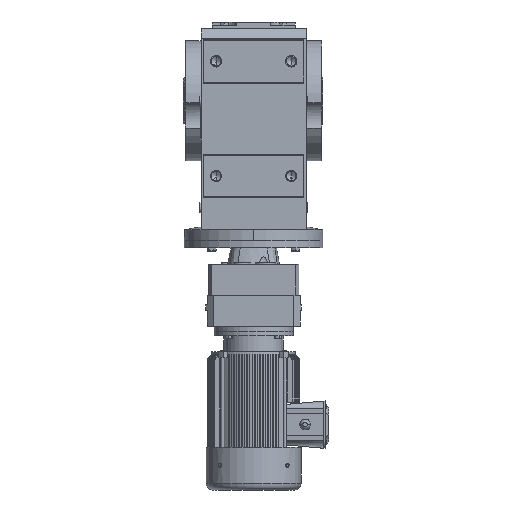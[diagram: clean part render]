
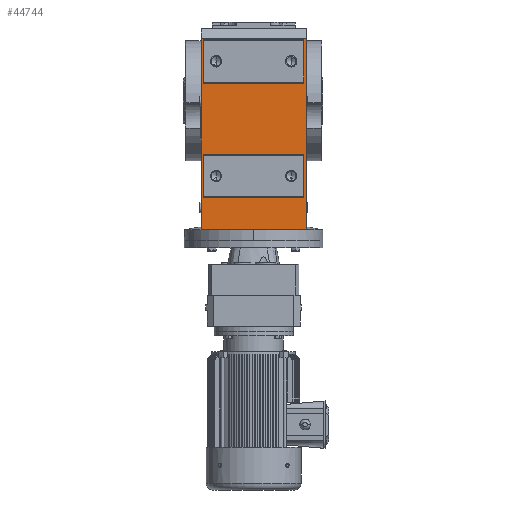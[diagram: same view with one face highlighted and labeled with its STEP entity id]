
A CAD part, front view. The second image highlights one B-rep face of the part: STEP entity #44744.
In plain terms, the highlighted planar face has unit normal (0, -1, 0).
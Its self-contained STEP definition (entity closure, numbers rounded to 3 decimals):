
#984 = CARTESIAN_POINT ( 'NONE',  ( -133., -312., 157.5 ) ) ;
#1056 = VECTOR ( 'NONE', #49701, 1000. ) ;
#2996 = DIRECTION ( 'NONE',  ( 0., 0., -1. ) ) ;
#3015 = VECTOR ( 'NONE', #16898, 1000. ) ;
#3242 = VECTOR ( 'NONE', #23582, 1000. ) ;
#3811 = VECTOR ( 'NONE', #43681, 1000. ) ;
#3964 = VECTOR ( 'NONE', #46951, 1000. ) ;
#4204 = VERTEX_POINT ( 'NONE', #11842 ) ;
#4445 = VERTEX_POINT ( 'NONE', #37050 ) ;
#4729 = EDGE_CURVE ( 'NONE', #49089, #53602, #39233, .T. ) ;
#5252 = VERTEX_POINT ( 'NONE', #41689 ) ;
#5641 = VECTOR ( 'NONE', #51372, 1000. ) ;
#5909 = LINE ( 'NONE', #17107, #52639 ) ;
#6199 = DIRECTION ( 'NONE',  ( -1., 0., 0. ) ) ;
#6311 = DIRECTION ( 'NONE',  ( 0., 0., -1. ) ) ;
#6414 = LINE ( 'NONE', #14896, #3964 ) ;
#7129 = CARTESIAN_POINT ( 'NONE',  ( -133., -312., -325. ) ) ;
#8010 = ORIENTED_EDGE ( 'NONE', *, *, #37526, .T. ) ;
#8143 = VECTOR ( 'NONE', #2996, 1000. ) ;
#8920 = LINE ( 'NONE', #37546, #49924 ) ;
#9485 = EDGE_CURVE ( 'NONE', #53602, #32753, #59058, .T. ) ;
#9522 = ORIENTED_EDGE ( 'NONE', *, *, #27325, .F. ) ;
#10568 = CARTESIAN_POINT ( 'NONE',  ( -126.5, -312., 155.5 ) ) ;
#10852 = DIRECTION ( 'NONE',  ( 0., 0., 1. ) ) ;
#11590 = FACE_BOUND ( 'NONE', #38620, .T. ) ;
#11621 = ORIENTED_EDGE ( 'NONE', *, *, #45225, .T. ) ;
#11842 = CARTESIAN_POINT ( 'NONE',  ( 133., -312., 157.5 ) ) ;
#12672 = CARTESIAN_POINT ( 'NONE',  ( -126.5, -312., 182.5 ) ) ;
#12800 = EDGE_CURVE ( 'NONE', #49089, #5252, #55266, .T. ) ;
#14896 = CARTESIAN_POINT ( 'NONE',  ( 133., -312., 157.5 ) ) ;
#15192 = PLANE ( 'NONE',  #62524 ) ;
#16898 = DIRECTION ( 'NONE',  ( -1., 0., 0. ) ) ;
#17107 = CARTESIAN_POINT ( 'NONE',  ( -133., -312., 157.5 ) ) ;
#17788 = CARTESIAN_POINT ( 'NONE',  ( 133., -312., 44.5 ) ) ;
#18023 = EDGE_CURVE ( 'NONE', #46463, #4445, #67484, .T. ) ;
#19879 = CARTESIAN_POINT ( 'NONE',  ( 133., -312., 155.5 ) ) ;
#21351 = DIRECTION ( 'NONE',  ( 0., 1., 0. ) ) ;
#22654 = EDGE_CURVE ( 'NONE', #5252, #32753, #32499, .T. ) ;
#23582 = DIRECTION ( 'NONE',  ( 0., 0., -1. ) ) ;
#24944 = VERTEX_POINT ( 'NONE', #30305 ) ;
#26365 = CARTESIAN_POINT ( 'NONE',  ( -126.5, -312., -134.5 ) ) ;
#26587 = CARTESIAN_POINT ( 'NONE',  ( 126.5, -312., 44.5 ) ) ;
#27310 = ORIENTED_EDGE ( 'NONE', *, *, #4729, .F. ) ;
#27325 = EDGE_CURVE ( 'NONE', #4204, #64619, #6414, .T. ) ;
#27377 = VECTOR ( 'NONE', #46512, 1000. ) ;
#27678 = LINE ( 'NONE', #19879, #35804 ) ;
#27719 = EDGE_CURVE ( 'NONE', #24944, #46463, #27678, .T. ) ;
#29907 = VECTOR ( 'NONE', #37630, 1000. ) ;
#30305 = CARTESIAN_POINT ( 'NONE',  ( 126.5, -312., 155.5 ) ) ;
#32499 = LINE ( 'NONE', #48225, #3015 ) ;
#32753 = VERTEX_POINT ( 'NONE', #33498 ) ;
#32836 = CARTESIAN_POINT ( 'NONE',  ( 133., -312., -325. ) ) ;
#33498 = CARTESIAN_POINT ( 'NONE',  ( -126.5, -312., -245.5 ) ) ;
#34248 = CARTESIAN_POINT ( 'NONE',  ( 133., -312., -325. ) ) ;
#34376 = CARTESIAN_POINT ( 'NONE',  ( 126.5, -312., 182.5 ) ) ;
#34479 = FACE_OUTER_BOUND ( 'NONE', #35879, .T. ) ;
#35536 = CARTESIAN_POINT ( 'NONE',  ( 133., -312., -134.5 ) ) ;
#35804 = VECTOR ( 'NONE', #36731, 1000. ) ;
#35879 = EDGE_LOOP ( 'NONE', ( #8010, #66175, #9522, #57096 ) ) ;
#36464 = ORIENTED_EDGE ( 'NONE', *, *, #47142, .T. ) ;
#36731 = DIRECTION ( 'NONE',  ( -1., 0., 0. ) ) ;
#37050 = CARTESIAN_POINT ( 'NONE',  ( -126.5, -312., 44.5 ) ) ;
#37526 = EDGE_CURVE ( 'NONE', #44126, #54370, #5909, .T. ) ;
#37546 = CARTESIAN_POINT ( 'NONE',  ( 133., -312., 157.5 ) ) ;
#37630 = DIRECTION ( 'NONE',  ( 1., 0., 0. ) ) ;
#38620 = EDGE_LOOP ( 'NONE', ( #65644, #46482, #11621, #36464 ) ) ;
#39233 = LINE ( 'NONE', #35536, #5641 ) ;
#41689 = CARTESIAN_POINT ( 'NONE',  ( 126.5, -312., -245.5 ) ) ;
#41842 = FACE_BOUND ( 'NONE', #46708, .T. ) ;
#43681 = DIRECTION ( 'NONE',  ( -1., 0., 0. ) ) ;
#44012 = LINE ( 'NONE', #17788, #3811 ) ;
#44126 = VERTEX_POINT ( 'NONE', #984 ) ;
#44744 = ADVANCED_FACE ( 'NONE', ( #11590, #41842, #34479 ), #15192, .F. ) ;
#45225 = EDGE_CURVE ( 'NONE', #24944, #63454, #49917, .T. ) ;
#46313 = LINE ( 'NONE', #32836, #29907 ) ;
#46463 = VERTEX_POINT ( 'NONE', #10568 ) ;
#46482 = ORIENTED_EDGE ( 'NONE', *, *, #27719, .F. ) ;
#46512 = DIRECTION ( 'NONE',  ( 0., 0., -1. ) ) ;
#46708 = EDGE_LOOP ( 'NONE', ( #60793, #27310, #54037, #61596 ) ) ;
#46951 = DIRECTION ( 'NONE',  ( 0., 0., -1. ) ) ;
#47142 = EDGE_CURVE ( 'NONE', #63454, #4445, #44012, .T. ) ;
#48225 = CARTESIAN_POINT ( 'NONE',  ( 133., -312., -245.5 ) ) ;
#49089 = VERTEX_POINT ( 'NONE', #49345 ) ;
#49345 = CARTESIAN_POINT ( 'NONE',  ( 126.5, -312., -134.5 ) ) ;
#49701 = DIRECTION ( 'NONE',  ( 0., 0., -1. ) ) ;
#49917 = LINE ( 'NONE', #34376, #8143 ) ;
#49924 = VECTOR ( 'NONE', #6199, 1000. ) ;
#51099 = CARTESIAN_POINT ( 'NONE',  ( 126.5, -312., 182.5 ) ) ;
#51372 = DIRECTION ( 'NONE',  ( -1., 0., 0. ) ) ;
#52012 = CARTESIAN_POINT ( 'NONE',  ( 133., -312., 157.5 ) ) ;
#52639 = VECTOR ( 'NONE', #6311, 1000. ) ;
#53196 = EDGE_CURVE ( 'NONE', #4204, #44126, #8920, .T. ) ;
#53602 = VERTEX_POINT ( 'NONE', #26365 ) ;
#54037 = ORIENTED_EDGE ( 'NONE', *, *, #12800, .T. ) ;
#54370 = VERTEX_POINT ( 'NONE', #7129 ) ;
#55266 = LINE ( 'NONE', #51099, #27377 ) ;
#56265 = EDGE_CURVE ( 'NONE', #54370, #64619, #46313, .T. ) ;
#57096 = ORIENTED_EDGE ( 'NONE', *, *, #53196, .T. ) ;
#59058 = LINE ( 'NONE', #59377, #3242 ) ;
#59377 = CARTESIAN_POINT ( 'NONE',  ( -126.5, -312., 182.5 ) ) ;
#60793 = ORIENTED_EDGE ( 'NONE', *, *, #9485, .F. ) ;
#61596 = ORIENTED_EDGE ( 'NONE', *, *, #22654, .T. ) ;
#62524 = AXIS2_PLACEMENT_3D ( 'NONE', #52012, #21351, #10852 ) ;
#63454 = VERTEX_POINT ( 'NONE', #26587 ) ;
#64619 = VERTEX_POINT ( 'NONE', #34248 ) ;
#65644 = ORIENTED_EDGE ( 'NONE', *, *, #18023, .F. ) ;
#66175 = ORIENTED_EDGE ( 'NONE', *, *, #56265, .T. ) ;
#67484 = LINE ( 'NONE', #12672, #1056 ) ;
